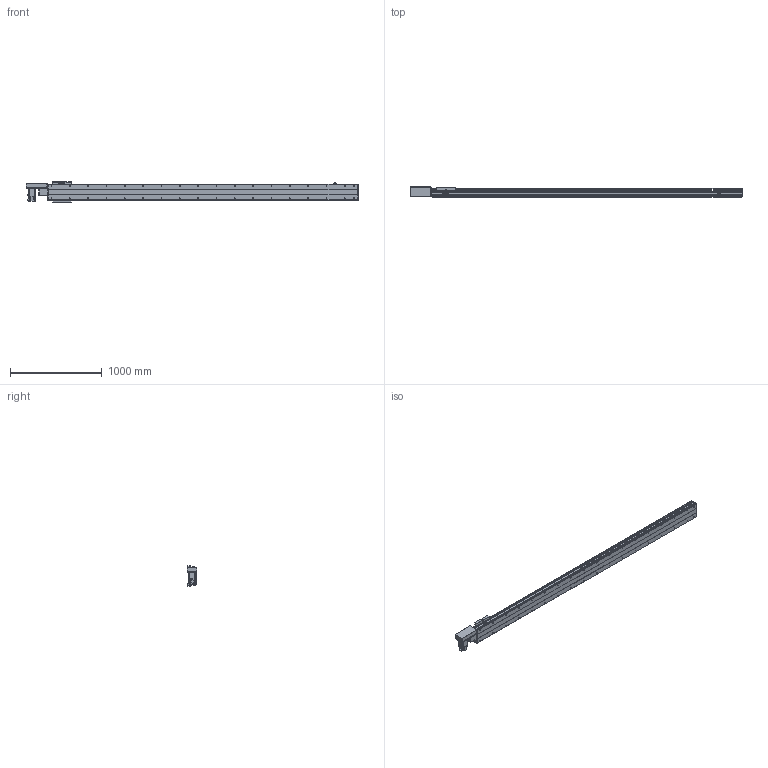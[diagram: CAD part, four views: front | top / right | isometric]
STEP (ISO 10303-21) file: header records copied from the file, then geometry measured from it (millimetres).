
FILE_DESCRIPTION(/* description */ ('STEP AP214'),/* implementation_level */ '2;1');
FILE_NAME(/* name */ 'PBS200-P40-S3000-R-T75-C1-N(0)',/* time_stamp */ '2022-06-11T08:11:28+02:00',/* author */ ('License CC BY-ND 4.0'),/* organization */ ('CADENAS'),/* preprocessor_version */ 'ST-DEVELOPER v18.102',/* originating_system */ 'PARTsolutions',/* authorisation */ ' ');
FILE_SCHEMA (('AUTOMOTIVE_DESIGN {1 0 10303 214 3 1 1}'));
Length unit declared in the file: millimetre
Products named in the file (7): PBS200-P40-S3000-R-T75-C1-N(0); PBS200_sensor; PBS200_plant; PBS200_sliser; T75-p1; PBS200T-R_motors; PBS200-S3000()_body
Assembly tree (8 placements, depth 2):
  PBS200-P40-S3000-R-T75-C1-N(0)
    PBS200_sensor  x3
    PBS200_plant
    PBS200_sliser
    T75-p1
    PBS200T-R_motors
    PBS200-S3000()_body
Bounding box: 3622 x 109 x 221 mm (x, y, z)
Volume: 23726001.4 mm3; surface area: 3788692.4 mm2
Topology: 8 solids, 8 shells, 980 faces, 2474 edges, 1608 vertices
Faces by surface type: plane 594, cylinder 318, cone 68
Full cylindrical faces by diameter (mm): 2.459 x6, 3.242 x4, 4.5 x6, 4.917 x4, 5 x6, 6 x7, 6.6 x8, 6.647 x40, 8 x6, 10 x4, 12 x8, 38 x2, 40 x1, 70 x1
Entity records: 25781 total; most frequent: DIRECTION 4567, CARTESIAN_POINT 4372, ORIENTED_EDGE 4102, EDGE_CURVE 2051, AXIS2_PLACEMENT_3D 1627, VERTEX_POINT 1432, LINE 1313, VECTOR 1313
